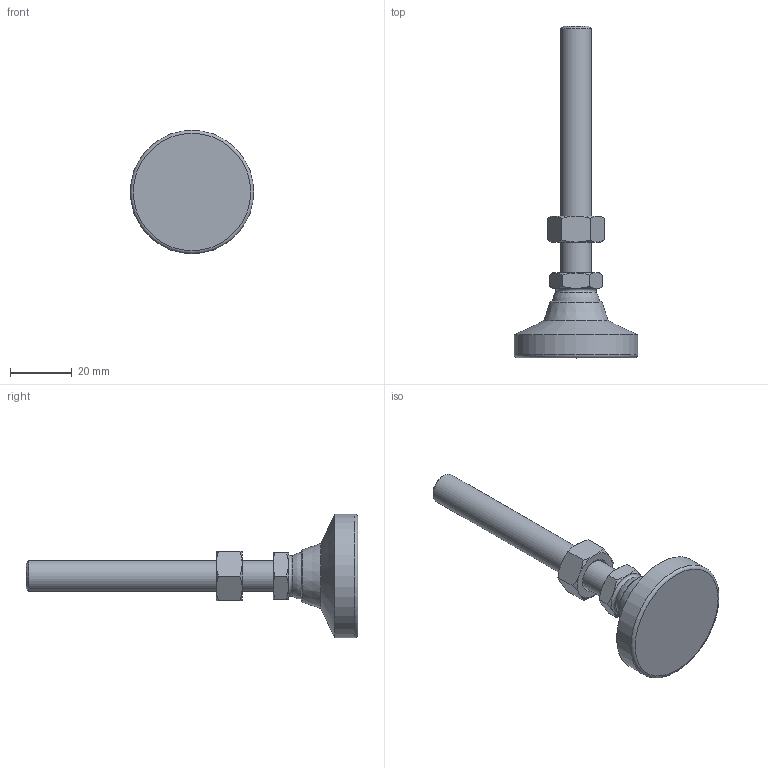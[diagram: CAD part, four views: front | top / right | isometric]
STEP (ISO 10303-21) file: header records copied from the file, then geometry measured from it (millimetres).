
FILE_DESCRIPTION( ( 'STEP AP214' ), ' ' );
FILE_NAME( 'O:/ganter_2015/teil_2/2_5/gn343_2/gn343_2_ks/Levelling foot with threaded stud GN 343.2-40-M10-80-KS-(0).stp', '2015-10-26T09:10:12', ( '' ), ( '' ), ' ', 'PARTsolutions', ' ' );
FILE_SCHEMA( ( 'AUTOMOTIVE_DESIGN { 1 0 10303 214 1 1 1 1 }' ) );
Length unit declared in the file: millimetre
Products named in the file (4): Levelling foot with threaded stud GN 343.2-40-M10-80-KS-(0); _Levelling foot with threaded stud GN 343.2-40-M10-80-KS-(0)_foot; _Gelenkfuss mit Schraube GN 343.2-40-M10-80-KS-(0)_screw; _GLevelling foot with threaded stud GN 343.2-40-M10-80-KS-(0)_nut
Assembly tree (3 placements, depth 2):
  Levelling foot with threaded stud GN 343.2-40-M10-80-KS-(0)
    _Levelling foot with threaded stud GN 343.2-40-M10-80-KS-(0)_foot
    _Gelenkfuss mit Schraube GN 343.2-40-M10-80-KS-(0)_screw
    _GLevelling foot with threaded stud GN 343.2-40-M10-80-KS-(0)_nut
Bounding box: 40 x 107.5 x 40 mm (x, y, z)
Volume: 23829.1 mm3; surface area: 8580.6 mm2
Topology: 3 solids, 3 shells, 50 faces, 107 edges, 63 vertices
Faces by surface type: cone 24, plane 18, torus 3, cylinder 3, sphere 2
Full cylindrical faces by diameter (mm): 8.376 x1, 10 x1, 40 x1
Entity records: 1874 total; most frequent: CARTESIAN_POINT 468, DIRECTION 188, ORIENTED_EDGE 176, AXIS2_PLACEMENT_3D 88, EDGE_CURVE 88, EDGE_LOOP 66, VERTEX_POINT 60, FACE_OUTER_BOUND 56
